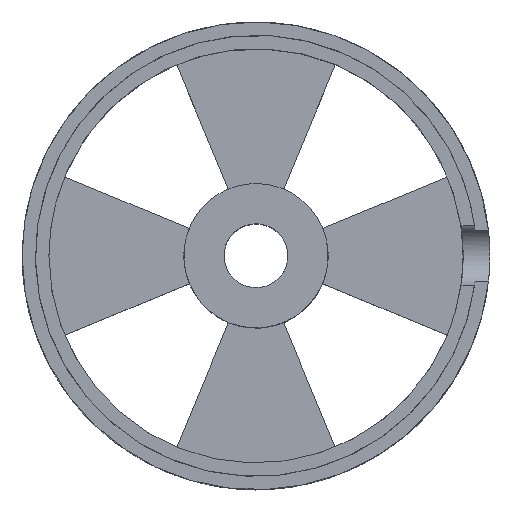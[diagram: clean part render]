
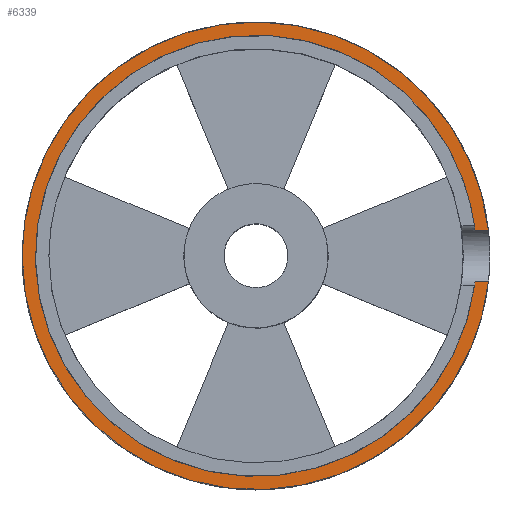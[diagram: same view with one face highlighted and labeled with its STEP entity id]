
A CAD part, top view. The second image highlights one B-rep face of the part: STEP entity #6339.
In plain terms, the highlighted planar face has unit normal (0, 0, 1).
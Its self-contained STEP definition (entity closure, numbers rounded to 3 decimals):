
#32 = CYLINDRICAL_SURFACE('',#33,1.125);
#33 = AXIS2_PLACEMENT_3D('',#34,#35,#36);
#34 = CARTESIAN_POINT('',(8.073,0.,
    8.615));
#35 = DIRECTION('',(1.,0.,0.
    ));
#36 = DIRECTION('',(0.,0.,1.)
  );
#412 = VERTEX_POINT('',#413);
#413 = CARTESIAN_POINT('',(8.196,-0.942,8.));
#495 = CYLINDRICAL_SURFACE('',#496,8.25);
#496 = AXIS2_PLACEMENT_3D('',#497,#498,#499);
#497 = CARTESIAN_POINT('',(0.,0.,
    8.3));
#498 = DIRECTION('',(0.,0.,
    1.));
#499 = DIRECTION('',(1.,0.,
    0.));
#511 = EDGE_CURVE('',#412,#512,#514,.T.);
#512 = VERTEX_POINT('',#513);
#513 = CARTESIAN_POINT('',(8.699,-0.942,8.));
#514 = SURFACE_CURVE('',#515,(#519,#529),.PCURVE_S1.);
#515 = ( BOUNDED_CURVE() B_SPLINE_CURVE(2,(#516,#517,#518),
.UNSPECIFIED.,.F.,.F.) B_SPLINE_CURVE_WITH_KNOTS((3,3),(0.,1.),
.PIECEWISE_BEZIER_KNOTS.) CURVE() GEOMETRIC_REPRESENTATION_ITEM() 
RATIONAL_B_SPLINE_CURVE((1.,1.,1.)) REPRESENTATION_ITEM('') 
  );
#516 = CARTESIAN_POINT('',(8.196,-0.942,8.));
#517 = CARTESIAN_POINT('',(8.448,-0.942,8.));
#518 = CARTESIAN_POINT('',(8.699,-0.942,8.));
#519 = PCURVE('',#32,#520);
#520 = DEFINITIONAL_REPRESENTATION('',(#521),#528);
#521 = B_SPLINE_CURVE_WITH_KNOTS('',5,(#522,#523,#524,#525,#526,#527),
  .UNSPECIFIED.,.F.,.F.,(6,6),(0.,1.),.PIECEWISE_BEZIER_KNOTS.);
#522 = CARTESIAN_POINT('',(2.149,0.123));
#523 = CARTESIAN_POINT('',(2.149,0.223));
#524 = CARTESIAN_POINT('',(2.149,0.324));
#525 = CARTESIAN_POINT('',(2.149,0.425));
#526 = CARTESIAN_POINT('',(2.149,0.525));
#527 = CARTESIAN_POINT('',(2.149,0.626));
#528 = ( GEOMETRIC_REPRESENTATION_CONTEXT(2) 
PARAMETRIC_REPRESENTATION_CONTEXT() REPRESENTATION_CONTEXT('2D SPACE',''
  ) );
#529 = PCURVE('',#530,#535);
#530 = PLANE('',#531);
#531 = AXIS2_PLACEMENT_3D('',#532,#533,#534);
#532 = CARTESIAN_POINT('',(-0.169,0.,8.));
#533 = DIRECTION('',(0.,0.,1.));
#534 = DIRECTION('',(0.,1.,0.));
#535 = DEFINITIONAL_REPRESENTATION('',(#536),#540);
#536 = ( BOUNDED_CURVE() B_SPLINE_CURVE(2,(#537,#538,#539),
.UNSPECIFIED.,.F.,.F.) B_SPLINE_CURVE_WITH_KNOTS((3,3),(0.,1.),
.PIECEWISE_BEZIER_KNOTS.) CURVE() GEOMETRIC_REPRESENTATION_ITEM() 
RATIONAL_B_SPLINE_CURVE((1.,1.,1.)) REPRESENTATION_ITEM('') 
  );
#537 = CARTESIAN_POINT('',(-0.942,-8.365));
#538 = CARTESIAN_POINT('',(-0.942,-8.616));
#539 = CARTESIAN_POINT('',(-0.942,-8.868));
#540 = ( GEOMETRIC_REPRESENTATION_CONTEXT(2) 
PARAMETRIC_REPRESENTATION_CONTEXT() REPRESENTATION_CONTEXT('2D SPACE',''
  ) );
#627 = CYLINDRICAL_SURFACE('',#628,8.75);
#628 = AXIS2_PLACEMENT_3D('',#629,#630,#631);
#629 = CARTESIAN_POINT('',(0.,0.,
    7.519));
#630 = DIRECTION('',(0.,0.,
    1.));
#631 = DIRECTION('',(0.,1.,0.));
#646 = VERTEX_POINT('',#647);
#647 = CARTESIAN_POINT('',(8.699,0.942,8.));
#730 = CYLINDRICAL_SURFACE('',#731,8.75);
#731 = AXIS2_PLACEMENT_3D('',#732,#733,#734);
#732 = CARTESIAN_POINT('',(0.,0.,
    7.519));
#733 = DIRECTION('',(0.,0.,
    1.));
#734 = DIRECTION('',(0.,-1.,0.));
#748 = EDGE_CURVE('',#646,#749,#751,.T.);
#749 = VERTEX_POINT('',#750);
#750 = CARTESIAN_POINT('',(8.196,0.942,8.));
#751 = SURFACE_CURVE('',#752,(#756,#766),.PCURVE_S1.);
#752 = ( BOUNDED_CURVE() B_SPLINE_CURVE(2,(#753,#754,#755),
.UNSPECIFIED.,.F.,.F.) B_SPLINE_CURVE_WITH_KNOTS((3,3),(0.,1.),
.PIECEWISE_BEZIER_KNOTS.) CURVE() GEOMETRIC_REPRESENTATION_ITEM() 
RATIONAL_B_SPLINE_CURVE((1.,1.,1.)) REPRESENTATION_ITEM('') 
  );
#753 = CARTESIAN_POINT('',(8.699,0.942,8.));
#754 = CARTESIAN_POINT('',(8.448,0.942,8.));
#755 = CARTESIAN_POINT('',(8.196,0.942,8.));
#756 = PCURVE('',#32,#757);
#757 = DEFINITIONAL_REPRESENTATION('',(#758),#765);
#758 = B_SPLINE_CURVE_WITH_KNOTS('',5,(#759,#760,#761,#762,#763,#764),
  .UNSPECIFIED.,.F.,.F.,(6,6),(0.,1.),.PIECEWISE_BEZIER_KNOTS.);
#759 = CARTESIAN_POINT('',(4.134,0.626));
#760 = CARTESIAN_POINT('',(4.134,0.525));
#761 = CARTESIAN_POINT('',(4.134,0.425));
#762 = CARTESIAN_POINT('',(4.134,0.324));
#763 = CARTESIAN_POINT('',(4.134,0.223));
#764 = CARTESIAN_POINT('',(4.134,0.123));
#765 = ( GEOMETRIC_REPRESENTATION_CONTEXT(2) 
PARAMETRIC_REPRESENTATION_CONTEXT() REPRESENTATION_CONTEXT('2D SPACE',''
  ) );
#766 = PCURVE('',#530,#767);
#767 = DEFINITIONAL_REPRESENTATION('',(#768),#772);
#768 = ( BOUNDED_CURVE() B_SPLINE_CURVE(2,(#769,#770,#771),
.UNSPECIFIED.,.F.,.F.) B_SPLINE_CURVE_WITH_KNOTS((3,3),(0.,1.),
.PIECEWISE_BEZIER_KNOTS.) CURVE() GEOMETRIC_REPRESENTATION_ITEM() 
RATIONAL_B_SPLINE_CURVE((1.,1.,1.)) REPRESENTATION_ITEM('') 
  );
#769 = CARTESIAN_POINT('',(0.942,-8.868));
#770 = CARTESIAN_POINT('',(0.942,-8.616));
#771 = CARTESIAN_POINT('',(0.942,-8.365));
#772 = ( GEOMETRIC_REPRESENTATION_CONTEXT(2) 
PARAMETRIC_REPRESENTATION_CONTEXT() REPRESENTATION_CONTEXT('2D SPACE',''
  ) );
#6339 = ADVANCED_FACE('',(#6340),#530,.T.);
#6340 = FACE_BOUND('',#6341,.T.);
#6341 = EDGE_LOOP('',(#6342,#6343,#6375,#6376,#6405));
#6342 = ORIENTED_EDGE('',*,*,#511,.F.);
#6343 = ORIENTED_EDGE('',*,*,#6344,.T.);
#6344 = EDGE_CURVE('',#412,#749,#6345,.T.);
#6345 = SURFACE_CURVE('',#6346,(#6351,#6362),.PCURVE_S1.);
#6346 = ELLIPSE('',#6347,8.25,8.25);
#6347 = AXIS2_PLACEMENT_3D('',#6348,#6349,#6350);
#6348 = CARTESIAN_POINT('',(0.,0.,8.)
  );
#6349 = DIRECTION('',(-0.,0.,-1.));
#6350 = DIRECTION('',(-1.,0.,0.));
#6351 = PCURVE('',#530,#6352);
#6352 = DEFINITIONAL_REPRESENTATION('',(#6353),#6361);
#6353 = ( BOUNDED_CURVE() B_SPLINE_CURVE(2,(#6354,#6355,#6356,#6357,
#6358,#6359,#6360),.UNSPECIFIED.,.T.,.F.) B_SPLINE_CURVE_WITH_KNOTS((1,2
    ,2,2,2,1),(-2.094,0.,2.094,4.189,
6.283,8.378),.UNSPECIFIED.) CURVE() 
GEOMETRIC_REPRESENTATION_ITEM() RATIONAL_B_SPLINE_CURVE((1.,0.5,1.,0.5,
1.,0.5,1.)) REPRESENTATION_ITEM('') );
#6354 = CARTESIAN_POINT('',(-0.001,8.081));
#6355 = CARTESIAN_POINT('',(14.289,8.082));
#6356 = CARTESIAN_POINT('',(7.145,-4.293));
#6357 = CARTESIAN_POINT('',(0.001,-16.669));
#6358 = CARTESIAN_POINT('',(-7.144,-4.294));
#6359 = CARTESIAN_POINT('',(-14.29,8.08));
#6360 = CARTESIAN_POINT('',(-0.001,8.081));
#6361 = ( GEOMETRIC_REPRESENTATION_CONTEXT(2) 
PARAMETRIC_REPRESENTATION_CONTEXT() REPRESENTATION_CONTEXT('2D SPACE',''
  ) );
#6362 = PCURVE('',#495,#6363);
#6363 = DEFINITIONAL_REPRESENTATION('',(#6364),#6374);
#6364 = B_SPLINE_CURVE_WITH_KNOTS('',8,(#6365,#6366,#6367,#6368,#6369,
    #6370,#6371,#6372,#6373),.UNSPECIFIED.,.F.,.F.,(9,9),(3.256
    ,9.31),.PIECEWISE_BEZIER_KNOTS.);
#6365 = CARTESIAN_POINT('',(6.169,-0.3));
#6366 = CARTESIAN_POINT('',(5.412,-0.3));
#6367 = CARTESIAN_POINT('',(4.655,-0.3));
#6368 = CARTESIAN_POINT('',(3.898,-0.3));
#6369 = CARTESIAN_POINT('',(3.142,-0.301));
#6370 = CARTESIAN_POINT('',(2.385,-0.3));
#6371 = CARTESIAN_POINT('',(1.628,-0.3));
#6372 = CARTESIAN_POINT('',(0.871,-0.3));
#6373 = CARTESIAN_POINT('',(0.114,-0.3));
#6374 = ( GEOMETRIC_REPRESENTATION_CONTEXT(2) 
PARAMETRIC_REPRESENTATION_CONTEXT() REPRESENTATION_CONTEXT('2D SPACE',''
  ) );
#6375 = ORIENTED_EDGE('',*,*,#748,.F.);
#6376 = ORIENTED_EDGE('',*,*,#6377,.T.);
#6377 = EDGE_CURVE('',#646,#6378,#6380,.T.);
#6378 = VERTEX_POINT('',#6379);
#6379 = CARTESIAN_POINT('',(-8.75,0.,8.));
#6380 = SURFACE_CURVE('',#6381,(#6386,#6393),.PCURVE_S1.);
#6381 = ELLIPSE('',#6382,8.75,8.75);
#6382 = AXIS2_PLACEMENT_3D('',#6383,#6384,#6385);
#6383 = CARTESIAN_POINT('',(0.,0.,8.));
#6384 = DIRECTION('',(0.,-0.,1.));
#6385 = DIRECTION('',(1.,0.001,0.));
#6386 = PCURVE('',#530,#6387);
#6387 = DEFINITIONAL_REPRESENTATION('',(#6388),#6392);
#6388 = ELLIPSE('',#6389,8.75,8.75);
#6389 = AXIS2_PLACEMENT_2D('',#6390,#6391);
#6390 = CARTESIAN_POINT('',(0.,-0.169));
#6391 = DIRECTION('',(0.001,-1.));
#6392 = ( GEOMETRIC_REPRESENTATION_CONTEXT(2) 
PARAMETRIC_REPRESENTATION_CONTEXT() REPRESENTATION_CONTEXT('2D SPACE',''
  ) );
#6393 = PCURVE('',#730,#6394);
#6394 = DEFINITIONAL_REPRESENTATION('',(#6395),#6404);
#6395 = B_SPLINE_CURVE_WITH_KNOTS('',7,(#6396,#6397,#6398,#6399,#6400,
    #6401,#6402,#6403),.UNSPECIFIED.,.F.,.F.,(8,8),(0.107,
    3.14),.PIECEWISE_BEZIER_KNOTS.);
#6396 = CARTESIAN_POINT('',(1.679,0.482));
#6397 = CARTESIAN_POINT('',(2.112,0.482));
#6398 = CARTESIAN_POINT('',(2.545,0.482));
#6399 = CARTESIAN_POINT('',(2.979,0.481));
#6400 = CARTESIAN_POINT('',(3.412,0.481));
#6401 = CARTESIAN_POINT('',(3.846,0.48));
#6402 = CARTESIAN_POINT('',(4.279,0.48));
#6403 = CARTESIAN_POINT('',(4.712,0.48));
#6404 = ( GEOMETRIC_REPRESENTATION_CONTEXT(2) 
PARAMETRIC_REPRESENTATION_CONTEXT() REPRESENTATION_CONTEXT('2D SPACE',''
  ) );
#6405 = ORIENTED_EDGE('',*,*,#6406,.T.);
#6406 = EDGE_CURVE('',#6378,#512,#6407,.T.);
#6407 = SURFACE_CURVE('',#6408,(#6413,#6420),.PCURVE_S1.);
#6408 = ELLIPSE('',#6409,8.75,8.75);
#6409 = AXIS2_PLACEMENT_3D('',#6410,#6411,#6412);
#6410 = CARTESIAN_POINT('',(0.,0.,8.));
#6411 = DIRECTION('',(0.,0.,1.));
#6412 = DIRECTION('',(-1.,-0.001,0.));
#6413 = PCURVE('',#530,#6414);
#6414 = DEFINITIONAL_REPRESENTATION('',(#6415),#6419);
#6415 = ELLIPSE('',#6416,8.75,8.75);
#6416 = AXIS2_PLACEMENT_2D('',#6417,#6418);
#6417 = CARTESIAN_POINT('',(0.,-0.169));
#6418 = DIRECTION('',(-0.001,1.));
#6419 = ( GEOMETRIC_REPRESENTATION_CONTEXT(2) 
PARAMETRIC_REPRESENTATION_CONTEXT() REPRESENTATION_CONTEXT('2D SPACE',''
  ) );
#6420 = PCURVE('',#627,#6421);
#6421 = DEFINITIONAL_REPRESENTATION('',(#6422),#6431);
#6422 = B_SPLINE_CURVE_WITH_KNOTS('',7,(#6423,#6424,#6425,#6426,#6427,
    #6428,#6429,#6430),.UNSPECIFIED.,.F.,.F.,(8,8),(6.282,
    9.316),.PIECEWISE_BEZIER_KNOTS.);
#6423 = CARTESIAN_POINT('',(1.571,0.48));
#6424 = CARTESIAN_POINT('',(2.004,0.48));
#6425 = CARTESIAN_POINT('',(2.438,0.48));
#6426 = CARTESIAN_POINT('',(2.871,0.481));
#6427 = CARTESIAN_POINT('',(3.304,0.481));
#6428 = CARTESIAN_POINT('',(3.738,0.482));
#6429 = CARTESIAN_POINT('',(4.171,0.482));
#6430 = CARTESIAN_POINT('',(4.604,0.482));
#6431 = ( GEOMETRIC_REPRESENTATION_CONTEXT(2) 
PARAMETRIC_REPRESENTATION_CONTEXT() REPRESENTATION_CONTEXT('2D SPACE',''
  ) );
